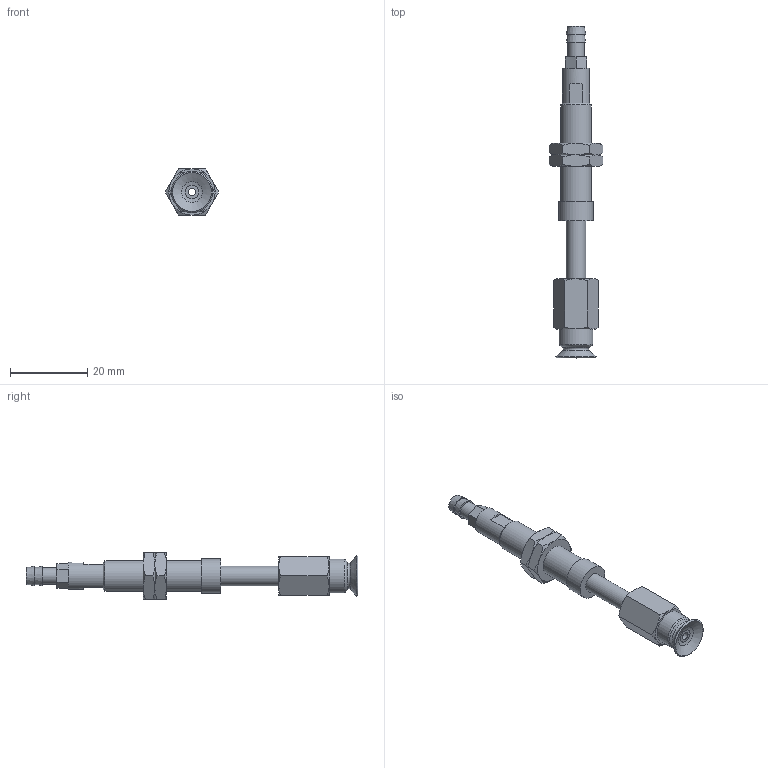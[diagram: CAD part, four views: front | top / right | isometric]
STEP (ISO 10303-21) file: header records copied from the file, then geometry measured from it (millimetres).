
FILE_DESCRIPTION(('STEP AP203'),'1');
FILE_NAME('-T.stp','2025-08-27T05:48:54',(' '),(' '),'Spatial InterOp 3D',' ',' ');
FILE_SCHEMA(('CONFIG_CONTROL_DESIGN'));
Length unit declared in the file: millimetre
Products named in the file (7): BNABPFTS-10A-15-※-T; ADAPTER; NAPATS-10A-15--M; Nut-10A-15-s; NAPFTS-10A-15-FBODY; BPFG-10A-※; T
Assembly tree (7 placements, depth 2):
  BNABPFTS-10A-15-※-T
    ADAPTER
    NAPATS-10A-15--M
    Nut-10A-15-s  x2
    NAPFTS-10A-15-FBODY
    BPFG-10A-※
    T
Bounding box: 13.86 x 86 x 12 mm (x, y, z)
Volume: 4104.5 mm3; surface area: 5071.2 mm2
Topology: 7 solids, 7 shells, 131 faces, 269 edges, 164 vertices
Faces by surface type: plane 54, cone 49, cylinder 19, torus 8, bspline 1
Full cylindrical faces by diameter (mm): 2 x3, 3 x1, 4 x2, 4.134 x1, 4.3 x1, 5 x3, 6 x2, 7 x1, 7.188 x2, 8 x1, 8.7 x1, 9 x1
Entity records: 3149 total; most frequent: CARTESIAN_POINT 733, DIRECTION 442, ORIENTED_EDGE 348, AXIS2_PLACEMENT_3D 201, EDGE_CURVE 174, EDGE_LOOP 170, FACE_OUTER_BOUND 135, VERTEX_POINT 128
